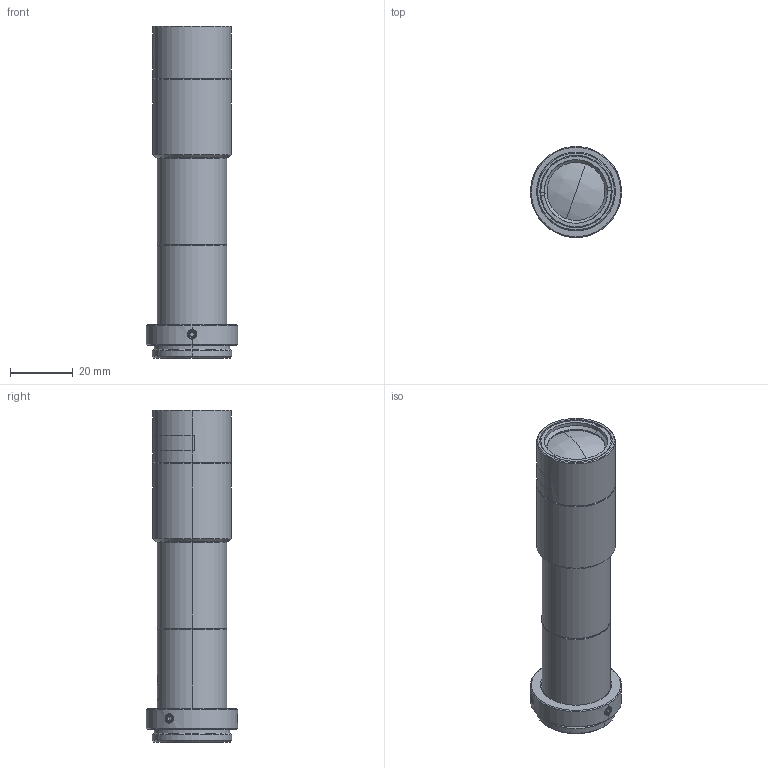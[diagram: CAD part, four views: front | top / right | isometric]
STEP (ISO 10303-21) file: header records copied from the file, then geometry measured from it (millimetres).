
FILE_DESCRIPTION(('LS-FFL-0042'),'2;1');
FILE_NAME('LS-FFL-0042.stp','2026-10-15T21:50:18',('LumaSpec Vision'),('LumaSpec Vision'),'LumaSpec Vision','LumaSpec Vision','');
FILE_SCHEMA(('AUTOMOTIVE_DESIGN { 1 0 10303 214 1 1 1 1 }'));
Length unit declared in the file: millimetre
Products named in the file (12): LS-FFL-0042
Assembly tree (11 placements, depth 2):
  LS-FFL-0042
    (unnamed)
    (unnamed)
    (unnamed)
    (unnamed)
    (unnamed)
    (unnamed)
    (unnamed)
    (unnamed)
    (unnamed)
    (unnamed)
    (unnamed)
Bounding box: 29 x 29 x 105.63 mm (x, y, z)
Volume: 27357.4 mm3; surface area: 21532.5 mm2
Topology: 11 solids, 11 shells, 344 faces, 745 edges, 460 vertices
Faces by surface type: cylinder 121, cone 121, plane 90, bspline 8, sphere 4
Entity records: 24581 total; most frequent: CARTESIAN_POINT 9156, DIRECTION 2982, ORIENTED_EDGE 1490, PCURVE 1490, DEFINITIONAL_REPRESENTATION 1490, LINE 1446, VECTOR 1446, EDGE_CURVE 745
